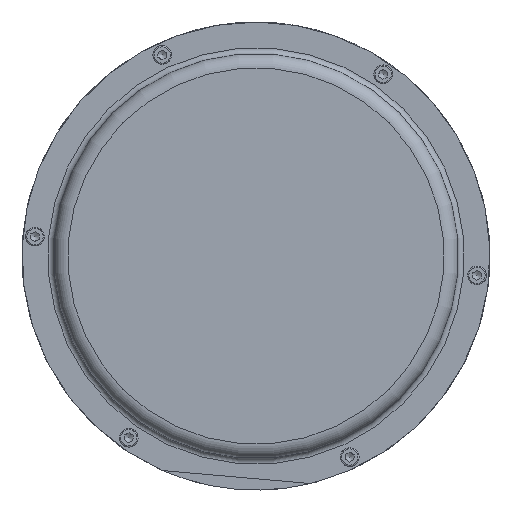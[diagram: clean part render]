
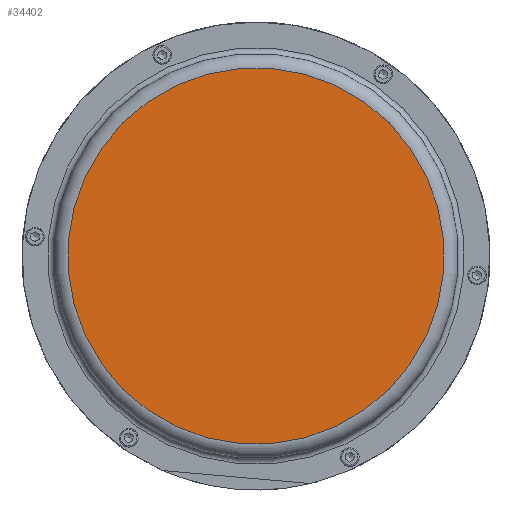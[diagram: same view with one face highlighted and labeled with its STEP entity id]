
A CAD part, left-side view. The second image highlights one B-rep face of the part: STEP entity #34402.
In plain terms, the highlighted planar face has unit normal (-1, 0, 0).
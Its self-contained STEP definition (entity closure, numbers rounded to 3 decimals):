
#8601=FACE_OUTER_BOUND('',#10574,.T.);
#10574=EDGE_LOOP('',(#26261));
#12041=CIRCLE('',#36915,131.5);
#14530=VERTEX_POINT('',#53990);
#18640=EDGE_CURVE('',#14530,#14530,#12041,.T.);
#26261=ORIENTED_EDGE('',*,*,#18640,.F.);
#31179=PLANE('',#36916);
#34402=ADVANCED_FACE('',(#8601),#31179,.T.);
#36915=AXIS2_PLACEMENT_3D('',#53992,#43301,#43302);
#36916=AXIS2_PLACEMENT_3D('',#53993,#43303,#43304);
#43301=DIRECTION('center_axis',(1.,0.,0.));
#43302=DIRECTION('ref_axis',(0.,0.087,-0.996));
#43303=DIRECTION('center_axis',(-1.,0.,0.));
#43304=DIRECTION('ref_axis',(0.,-0.996,-0.087));
#53990=CARTESIAN_POINT('',(-312.075,-131.,-11.461));
#53992=CARTESIAN_POINT('Origin',(-312.075,0.,
0.));
#53993=CARTESIAN_POINT('Origin',(-312.075,-6.166,70.481));
